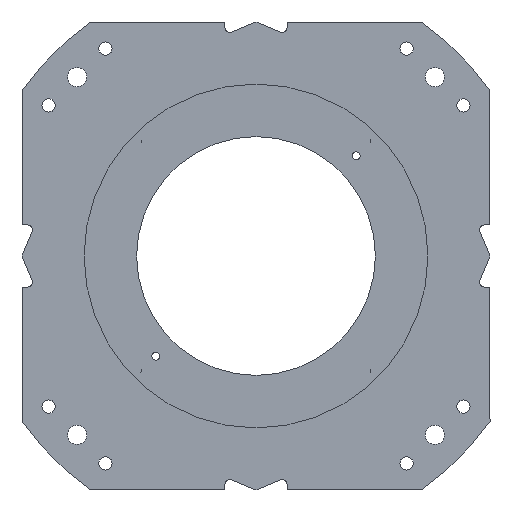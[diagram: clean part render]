
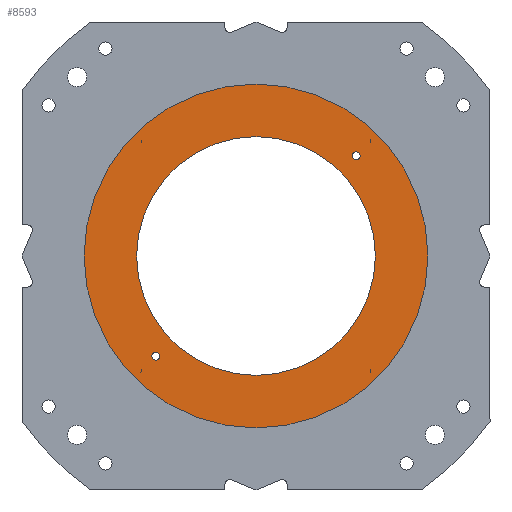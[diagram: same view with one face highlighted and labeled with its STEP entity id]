
A CAD part, front view. The second image highlights one B-rep face of the part: STEP entity #8593.
In plain terms, the highlighted planar face has unit normal (0, -1, 0).
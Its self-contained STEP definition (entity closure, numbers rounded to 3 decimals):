
#222 = CARTESIAN_POINT ( 'NONE',  ( 0., 563., 0. ) ) ;
#384 = EDGE_LOOP ( 'NONE', ( #7648, #3479 ) ) ;
#451 = CIRCLE ( 'NONE', #8862, 180. ) ;
#831 = ORIENTED_EDGE ( 'NONE', *, *, #4962, .F. ) ;
#1038 = VERTEX_POINT ( 'NONE', #8345 ) ;
#1067 = DIRECTION ( 'NONE',  ( 0., -1., 0. ) ) ;
#1180 = CARTESIAN_POINT ( 'NONE',  ( 0., 563., 0. ) ) ;
#1517 = AXIS2_PLACEMENT_3D ( 'NONE', #1925, #7294, #10876 ) ;
#1629 = CARTESIAN_POINT ( 'NONE',  ( 0., 563., 125. ) ) ;
#1925 = CARTESIAN_POINT ( 'NONE',  ( 0., 563., 0. ) ) ;
#2063 = DIRECTION ( 'NONE',  ( 0., 0., -1. ) ) ;
#2228 = EDGE_LOOP ( 'NONE', ( #4803, #831 ) ) ;
#2507 = CARTESIAN_POINT ( 'NONE',  ( -105., 563., -105. ) ) ;
#2614 = CIRCLE ( 'NONE', #4106, 4. ) ;
#2787 = CARTESIAN_POINT ( 'NONE',  ( 105., 563., 101. ) ) ;
#2856 = ORIENTED_EDGE ( 'NONE', *, *, #10074, .F. ) ;
#3018 = DIRECTION ( 'NONE',  ( 0., 0., -1. ) ) ;
#3190 = DIRECTION ( 'NONE',  ( 0., -1., 0. ) ) ;
#3354 = VERTEX_POINT ( 'NONE', #5773 ) ;
#3479 = ORIENTED_EDGE ( 'NONE', *, *, #7825, .F. ) ;
#3673 = EDGE_CURVE ( 'NONE', #1038, #9812, #2614, .T. ) ;
#3676 = DIRECTION ( 'NONE',  ( 0., 0., -1. ) ) ;
#3692 = VERTEX_POINT ( 'NONE', #4833 ) ;
#3905 = DIRECTION ( 'NONE',  ( 0., 0., -1. ) ) ;
#4017 = CIRCLE ( 'NONE', #10560, 125. ) ;
#4106 = AXIS2_PLACEMENT_3D ( 'NONE', #11045, #3190, #3018 ) ;
#4524 = DIRECTION ( 'NONE',  ( 0., 0., 1. ) ) ;
#4647 = FACE_BOUND ( 'NONE', #2228, .T. ) ;
#4710 = CIRCLE ( 'NONE', #10127, 125. ) ;
#4803 = ORIENTED_EDGE ( 'NONE', *, *, #11231, .F. ) ;
#4833 = CARTESIAN_POINT ( 'NONE',  ( -105., 563., -109. ) ) ;
#4962 = EDGE_CURVE ( 'NONE', #3354, #8512, #4710, .T. ) ;
#5145 = DIRECTION ( 'NONE',  ( 0., -1., 0. ) ) ;
#5395 = CARTESIAN_POINT ( 'NONE',  ( 0., 563., 0. ) ) ;
#5593 = EDGE_CURVE ( 'NONE', #10429, #5675, #6545, .T. ) ;
#5675 = VERTEX_POINT ( 'NONE', #6386 ) ;
#5773 = CARTESIAN_POINT ( 'NONE',  ( 0., 563., -125. ) ) ;
#5891 = CIRCLE ( 'NONE', #11513, 4. ) ;
#6220 = DIRECTION ( 'NONE',  ( 0., -1., 0. ) ) ;
#6386 = CARTESIAN_POINT ( 'NONE',  ( 0., 563., -180. ) ) ;
#6405 = DIRECTION ( 'NONE',  ( 0., -1., 0. ) ) ;
#6453 = DIRECTION ( 'NONE',  ( 0., 1., 0. ) ) ;
#6545 = CIRCLE ( 'NONE', #1517, 180. ) ;
#6612 = VERTEX_POINT ( 'NONE', #9984 ) ;
#6995 = AXIS2_PLACEMENT_3D ( 'NONE', #222, #6405, #11081 ) ;
#7294 = DIRECTION ( 'NONE',  ( 0., 1., 0. ) ) ;
#7401 = FACE_BOUND ( 'NONE', #10753, .T. ) ;
#7451 = FACE_BOUND ( 'NONE', #10502, .T. ) ;
#7648 = ORIENTED_EDGE ( 'NONE', *, *, #5593, .F. ) ;
#7723 = CIRCLE ( 'NONE', #11093, 4. ) ;
#7825 = EDGE_CURVE ( 'NONE', #5675, #10429, #451, .T. ) ;
#7983 = ORIENTED_EDGE ( 'NONE', *, *, #8196, .F. ) ;
#8167 = DIRECTION ( 'NONE',  ( 0., -1., 0. ) ) ;
#8196 = EDGE_CURVE ( 'NONE', #9812, #1038, #7723, .T. ) ;
#8345 = CARTESIAN_POINT ( 'NONE',  ( 105., 563., 109. ) ) ;
#8512 = VERTEX_POINT ( 'NONE', #1629 ) ;
#8593 = ADVANCED_FACE ( 'NONE', ( #7401, #7451, #4647, #9055 ), #10098, .T. ) ;
#8862 = AXIS2_PLACEMENT_3D ( 'NONE', #9913, #6453, #4524 ) ;
#8923 = DIRECTION ( 'NONE',  ( 0., 0., -1. ) ) ;
#9055 = FACE_OUTER_BOUND ( 'NONE', #384, .T. ) ;
#9204 = EDGE_CURVE ( 'NONE', #6612, #3692, #10000, .T. ) ;
#9623 = AXIS2_PLACEMENT_3D ( 'NONE', #2507, #5145, #11413 ) ;
#9812 = VERTEX_POINT ( 'NONE', #2787 ) ;
#9913 = CARTESIAN_POINT ( 'NONE',  ( 0., 563., 0. ) ) ;
#9940 = CARTESIAN_POINT ( 'NONE',  ( -105., 563., -105. ) ) ;
#9984 = CARTESIAN_POINT ( 'NONE',  ( -105., 563., -101. ) ) ;
#10000 = CIRCLE ( 'NONE', #9623, 4. ) ;
#10059 = DIRECTION ( 'NONE',  ( 0., -1., 0. ) ) ;
#10074 = EDGE_CURVE ( 'NONE', #3692, #6612, #5891, .T. ) ;
#10098 = PLANE ( 'NONE',  #6995 ) ;
#10127 = AXIS2_PLACEMENT_3D ( 'NONE', #5395, #6220, #8923 ) ;
#10429 = VERTEX_POINT ( 'NONE', #10864 ) ;
#10502 = EDGE_LOOP ( 'NONE', ( #11213, #7983 ) ) ;
#10560 = AXIS2_PLACEMENT_3D ( 'NONE', #1180, #1067, #3905 ) ;
#10663 = ORIENTED_EDGE ( 'NONE', *, *, #9204, .F. ) ;
#10753 = EDGE_LOOP ( 'NONE', ( #10663, #2856 ) ) ;
#10864 = CARTESIAN_POINT ( 'NONE',  ( 0., 563., 180. ) ) ;
#10876 = DIRECTION ( 'NONE',  ( 0., 0., 1. ) ) ;
#10909 = CARTESIAN_POINT ( 'NONE',  ( 105., 563., 105. ) ) ;
#11045 = CARTESIAN_POINT ( 'NONE',  ( 105., 563., 105. ) ) ;
#11081 = DIRECTION ( 'NONE',  ( 0., 0., -1. ) ) ;
#11093 = AXIS2_PLACEMENT_3D ( 'NONE', #10909, #8167, #2063 ) ;
#11213 = ORIENTED_EDGE ( 'NONE', *, *, #3673, .F. ) ;
#11231 = EDGE_CURVE ( 'NONE', #8512, #3354, #4017, .T. ) ;
#11413 = DIRECTION ( 'NONE',  ( 0., 0., -1. ) ) ;
#11513 = AXIS2_PLACEMENT_3D ( 'NONE', #9940, #10059, #3676 ) ;
